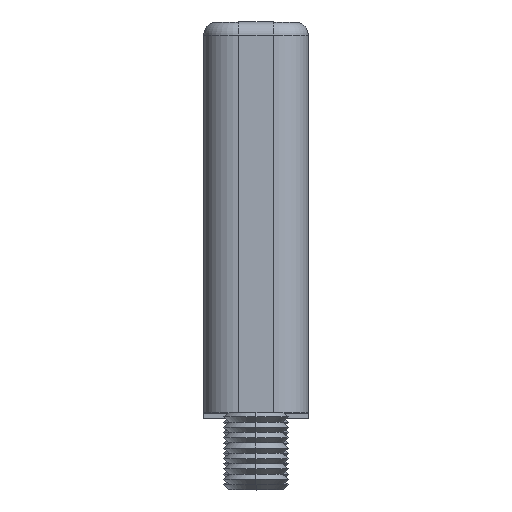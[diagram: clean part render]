
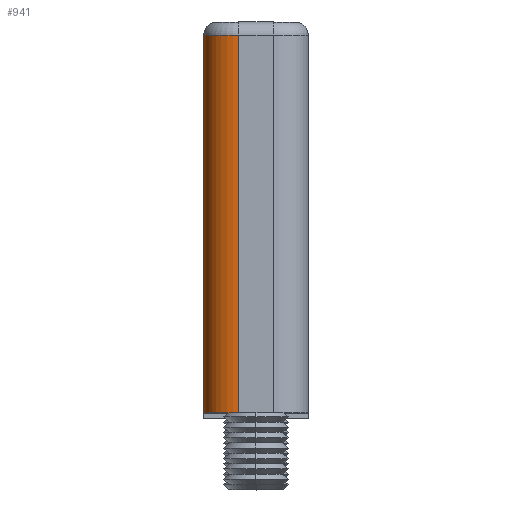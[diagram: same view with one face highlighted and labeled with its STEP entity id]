
A CAD part, top view. The second image highlights one B-rep face of the part: STEP entity #941.
In plain terms, the highlighted cylindrical face has radius 2.667 mm (diameter 5.333 mm), a partial arc.
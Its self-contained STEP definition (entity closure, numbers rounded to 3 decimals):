
#18 = ORIENTED_EDGE ( 'NONE', *, *, #4393, .T. ) ;
#26 = CARTESIAN_POINT ( 'NONE',  ( -4.833, 29., -1.333 ) ) ;
#419 = CARTESIAN_POINT ( 'NONE',  ( -7.5, 30., -1.333 ) ) ;
#500 = CYLINDRICAL_SURFACE ( 'NONE', #4896, 2.667 ) ;
#582 = EDGE_CURVE ( 'NONE', #4324, #2566, #652, .T. ) ;
#652 = CIRCLE ( 'NONE', #1782, 2.667 ) ;
#683 = VERTEX_POINT ( 'NONE', #4213 ) ;
#860 = DIRECTION ( 'NONE',  ( 0., 0., 1. ) ) ;
#941 = ADVANCED_FACE ( 'NONE', ( #5678 ), #500, .T. ) ;
#1417 = DIRECTION ( 'NONE',  ( 0., 0., 1. ) ) ;
#1486 = LINE ( 'NONE', #419, #5653 ) ;
#1782 = AXIS2_PLACEMENT_3D ( 'NONE', #5877, #3584, #860 ) ;
#2005 = CIRCLE ( 'NONE', #2552, 2.667 ) ;
#2285 = DIRECTION ( 'NONE',  ( 0., -1., 0. ) ) ;
#2325 = DIRECTION ( 'NONE',  ( 0., -1., 0. ) ) ;
#2552 = AXIS2_PLACEMENT_3D ( 'NONE', #26, #5592, #1417 ) ;
#2566 = VERTEX_POINT ( 'NONE', #3817 ) ;
#3011 = CARTESIAN_POINT ( 'NONE',  ( -4.833, 30., -1.333 ) ) ;
#3150 = VERTEX_POINT ( 'NONE', #3811 ) ;
#3236 = EDGE_CURVE ( 'NONE', #683, #3150, #2005, .T. ) ;
#3364 = EDGE_LOOP ( 'NONE', ( #3491, #3466, #18, #4334 ) ) ;
#3449 = DIRECTION ( 'NONE',  ( 0., 0., -1. ) ) ;
#3466 = ORIENTED_EDGE ( 'NONE', *, *, #3236, .T. ) ;
#3491 = ORIENTED_EDGE ( 'NONE', *, *, #3723, .F. ) ;
#3494 = DIRECTION ( 'NONE',  ( 0., -1., 0. ) ) ;
#3577 = VECTOR ( 'NONE', #2325, 1000. ) ;
#3584 = DIRECTION ( 'NONE',  ( 0., 1., 0. ) ) ;
#3723 = EDGE_CURVE ( 'NONE', #683, #2566, #1486, .T. ) ;
#3811 = CARTESIAN_POINT ( 'NONE',  ( -4.833, 29., -4. ) ) ;
#3817 = CARTESIAN_POINT ( 'NONE',  ( -7.5, 0., -1.333 ) ) ;
#3858 = LINE ( 'NONE', #4041, #3577 ) ;
#4041 = CARTESIAN_POINT ( 'NONE',  ( -4.833, 30., -4. ) ) ;
#4213 = CARTESIAN_POINT ( 'NONE',  ( -7.5, 29., -1.333 ) ) ;
#4324 = VERTEX_POINT ( 'NONE', #5070 ) ;
#4334 = ORIENTED_EDGE ( 'NONE', *, *, #582, .T. ) ;
#4393 = EDGE_CURVE ( 'NONE', #3150, #4324, #3858, .T. ) ;
#4896 = AXIS2_PLACEMENT_3D ( 'NONE', #3011, #3494, #3449 ) ;
#5070 = CARTESIAN_POINT ( 'NONE',  ( -4.833, 0., -4. ) ) ;
#5592 = DIRECTION ( 'NONE',  ( 0., -1., 0. ) ) ;
#5653 = VECTOR ( 'NONE', #2285, 1000. ) ;
#5678 = FACE_OUTER_BOUND ( 'NONE', #3364, .T. ) ;
#5877 = CARTESIAN_POINT ( 'NONE',  ( -4.833, 0., -1.333 ) ) ;
